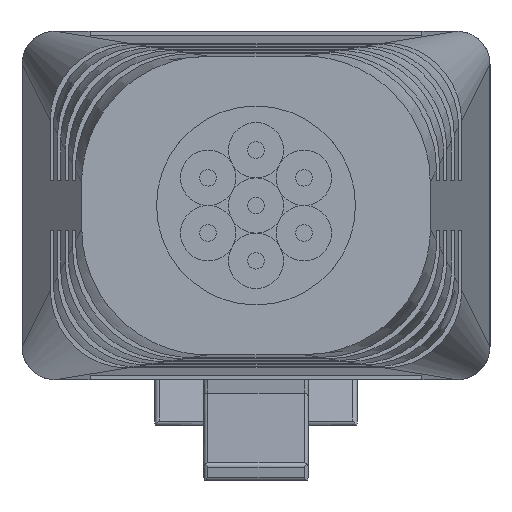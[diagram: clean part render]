
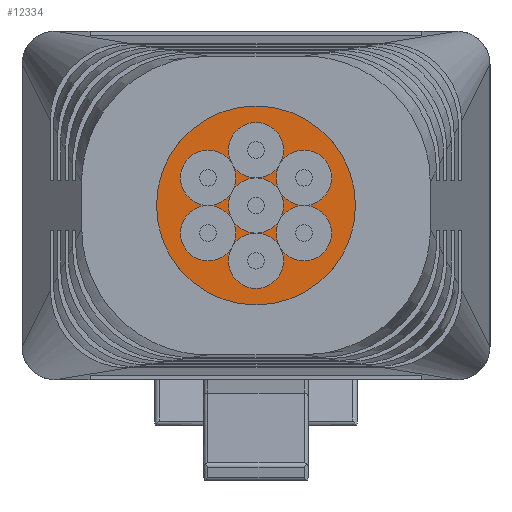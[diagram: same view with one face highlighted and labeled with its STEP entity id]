
A CAD part, left-side view. The second image highlights one B-rep face of the part: STEP entity #12334.
In plain terms, the highlighted planar face has unit normal (-1, 0, 0) as drawn and (0, 0, 1) by its records, which use the part's own axes.
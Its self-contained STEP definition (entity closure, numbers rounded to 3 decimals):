
#435 = CIRCLE ( 'NONE', #12335, 2.997 ) ;
#448 = PLANE ( 'NONE',  #13266 ) ;
#959 = DIRECTION ( 'NONE',  ( 0., 0., 1. ) ) ;
#3983 = CARTESIAN_POINT ( 'NONE',  ( -2.997, 0., 43.2 ) ) ;
#4460 = DIRECTION ( 'NONE',  ( 0., 0., 1. ) ) ;
#5654 = EDGE_CURVE ( 'NONE', #27005, #22439, #435, .T. ) ;
#6665 = CARTESIAN_POINT ( 'NONE',  ( 2.997, 0., 43.2 ) ) ;
#6688 = EDGE_LOOP ( 'NONE', ( #10014, #17965 ) ) ;
#6928 = FACE_OUTER_BOUND ( 'NONE', #6688, .T. ) ;
#9798 = AXIS2_PLACEMENT_3D ( 'NONE', #15253, #4460, #15680 ) ;
#10014 = ORIENTED_EDGE ( 'NONE', *, *, #5654, .T. ) ;
#11667 = CARTESIAN_POINT ( 'NONE',  ( 0., 0., 43.2 ) ) ;
#12334 = ADVANCED_FACE ( 'NONE', ( #6928 ), #448, .T. ) ;
#12335 = AXIS2_PLACEMENT_3D ( 'NONE', #20660, #959, #25409 ) ;
#13266 = AXIS2_PLACEMENT_3D ( 'NONE', #11667, #13677, #24743 ) ;
#13677 = DIRECTION ( 'NONE',  ( 0., 0., 1. ) ) ;
#14404 = CIRCLE ( 'NONE', #9798, 2.997 ) ;
#15253 = CARTESIAN_POINT ( 'NONE',  ( 0., 0., 43.2 ) ) ;
#15680 = DIRECTION ( 'NONE',  ( 1., 0., 0. ) ) ;
#17965 = ORIENTED_EDGE ( 'NONE', *, *, #22808, .T. ) ;
#20660 = CARTESIAN_POINT ( 'NONE',  ( 0., 0., 43.2 ) ) ;
#22439 = VERTEX_POINT ( 'NONE', #6665 ) ;
#22808 = EDGE_CURVE ( 'NONE', #22439, #27005, #14404, .T. ) ;
#24743 = DIRECTION ( 'NONE',  ( 1., 0., 0. ) ) ;
#25409 = DIRECTION ( 'NONE',  ( 1., 0., 0. ) ) ;
#27005 = VERTEX_POINT ( 'NONE', #3983 ) ;
